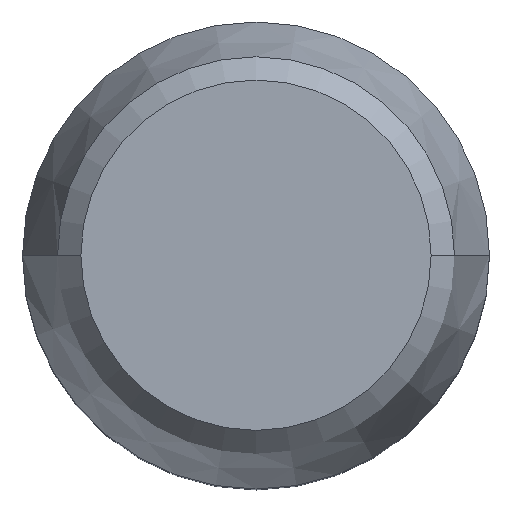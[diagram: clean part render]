
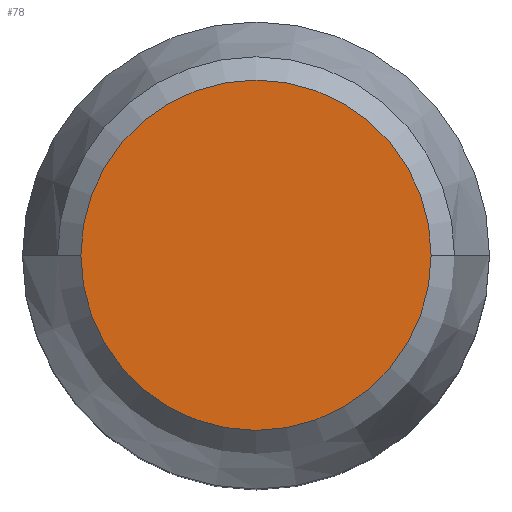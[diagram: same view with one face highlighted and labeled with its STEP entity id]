
A CAD part, top view. The second image highlights one B-rep face of the part: STEP entity #78.
In plain terms, the highlighted planar face has unit normal (0, 0, 1).
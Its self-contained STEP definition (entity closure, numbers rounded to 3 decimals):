
#78=ADVANCED_FACE('',(#173),#174,.F.);
#173=FACE_OUTER_BOUND('',#281,.T.);
#174=PLANE('',#282);
#281=EDGE_LOOP('',(#440,#441));
#282=AXIS2_PLACEMENT_3D('',#442,#443,#444);
#440=ORIENTED_EDGE('',*,*,#683,.F.);
#441=ORIENTED_EDGE('',*,*,#688,.F.);
#442=CARTESIAN_POINT('',(0.0,0.0,200.0));
#443=DIRECTION('',(0.0,0.0,-1.0));
#444=DIRECTION('',(-1.0,0.0,0.0));
#683=EDGE_CURVE('',#821,#817,#823,.T.);
#688=EDGE_CURVE('',#817,#821,#828,.T.);
#817=VERTEX_POINT('',#993);
#821=VERTEX_POINT('',#998);
#823=CIRCLE('',#1001,3.75);
#828=CIRCLE('',#1006,3.75);
#993=CARTESIAN_POINT('',(3.75,0.,200.0));
#998=CARTESIAN_POINT('',(-3.75,0.,200.0));
#1001=AXIS2_PLACEMENT_3D('',#1234,#1235,#1236);
#1006=AXIS2_PLACEMENT_3D('',#1243,#1244,#1245);
#1234=CARTESIAN_POINT('',(0.0,0.0,200.0));
#1235=DIRECTION('',(0.0,0.0,-1.0));
#1236=DIRECTION('',(1.0,0.0,0.0));
#1243=CARTESIAN_POINT('',(0.0,0.0,200.0));
#1244=DIRECTION('',(0.0,0.0,-1.0));
#1245=DIRECTION('',(1.0,0.0,0.0));
